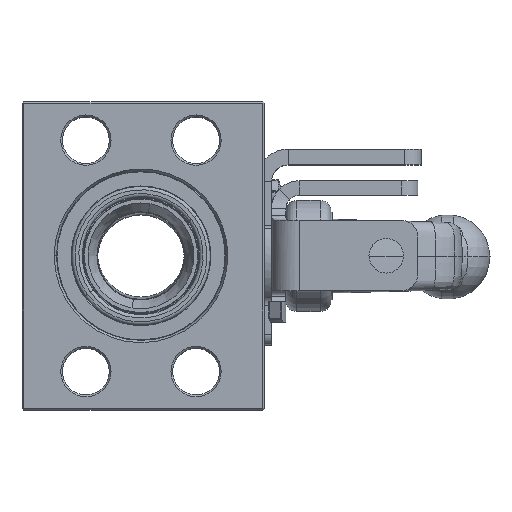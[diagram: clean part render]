
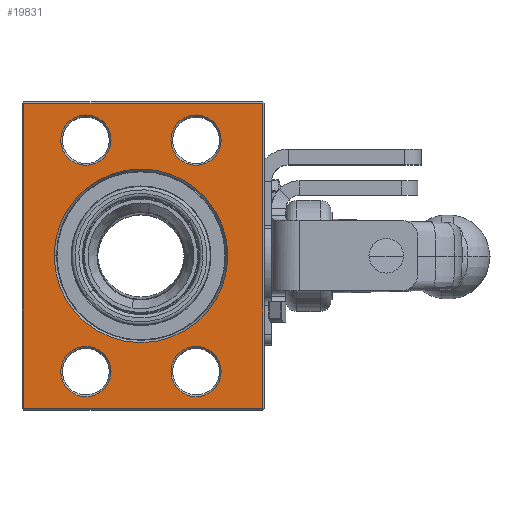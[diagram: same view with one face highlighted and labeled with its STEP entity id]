
A CAD part, top view. The second image highlights one B-rep face of the part: STEP entity #19831.
In plain terms, the highlighted planar face has unit normal (0, 0, 1).
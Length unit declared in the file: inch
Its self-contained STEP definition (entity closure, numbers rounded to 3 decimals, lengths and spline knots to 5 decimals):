
#115 = EDGE_CURVE ( 'NONE', #28345, #23156, #29807, .T. ) ;
#414 = EDGE_CURVE ( 'NONE', #30707, #33811, #50816, .T. ) ;
#443 = DIRECTION ( 'NONE',  ( -1., 0., 0. ) ) ;
#485 = DIRECTION ( 'NONE',  ( 0., 0., -1. ) ) ;
#884 = CIRCLE ( 'NONE', #41654, 0.285 ) ;
#1226 = ORIENTED_EDGE ( 'NONE', *, *, #42892, .T. ) ;
#1297 = LINE ( 'NONE', #17258, #22235 ) ;
#2277 = VERTEX_POINT ( 'NONE', #28572 ) ;
#2711 = ORIENTED_EDGE ( 'NONE', *, *, #44170, .T. ) ;
#2785 = EDGE_CURVE ( 'NONE', #5472, #27418, #18667, .T. ) ;
#3116 = EDGE_CURVE ( 'NONE', #42553, #6501, #38236, .T. ) ;
#3487 = CIRCLE ( 'NONE', #19976, 0.98498 ) ;
#3756 = DIRECTION ( 'NONE',  ( -1., 0., 0. ) ) ;
#4129 = EDGE_CURVE ( 'NONE', #33811, #30707, #9684, .T. ) ;
#4918 = DIRECTION ( 'NONE',  ( 0., 1., 0. ) ) ;
#5430 = CIRCLE ( 'NONE', #8846, 0.285 ) ;
#5472 = VERTEX_POINT ( 'NONE', #11023 ) ;
#6365 = LINE ( 'NONE', #16170, #7927 ) ;
#6501 = VERTEX_POINT ( 'NONE', #50022 ) ;
#6754 = EDGE_CURVE ( 'NONE', #20662, #45246, #5430, .T. ) ;
#6847 = DIRECTION ( 'NONE',  ( -1., 0., 0. ) ) ;
#7009 = CARTESIAN_POINT ( 'NONE',  ( 1.42306, 0.38369, 3.4426 ) ) ;
#7205 = EDGE_LOOP ( 'NONE', ( #51368, #36867 ) ) ;
#7234 = CARTESIAN_POINT ( 'NONE',  ( 1.99306, 3.00969, 3.4426 ) ) ;
#7243 = FACE_BOUND ( 'NONE', #37890, .T. ) ;
#7495 = PLANE ( 'NONE',  #17086 ) ;
#7591 = CARTESIAN_POINT ( 'NONE',  ( 2.46306, 3.42669, 3.4426 ) ) ;
#7927 = VECTOR ( 'NONE', #4918, 39.37008 ) ;
#8024 = DIRECTION ( 'NONE',  ( 0., 0., -1. ) ) ;
#8846 = AXIS2_PLACEMENT_3D ( 'NONE', #26556, #22574, #6847 ) ;
#8902 = CARTESIAN_POINT ( 'NONE',  ( -0.24694, -0.03331, 3.4426 ) ) ;
#8921 = CARTESIAN_POINT ( 'NONE',  ( 1.70806, 0.38369, 3.4426 ) ) ;
#9172 = EDGE_CURVE ( 'NONE', #46580, #10552, #6365, .T. ) ;
#9603 = ORIENTED_EDGE ( 'NONE', *, *, #36238, .T. ) ;
#9684 = CIRCLE ( 'NONE', #38581, 0.285 ) ;
#9942 = CARTESIAN_POINT ( 'NONE',  ( -0.24694, 3.42669, 3.4426 ) ) ;
#9978 = DIRECTION ( 'NONE',  ( 0., 0., -1. ) ) ;
#10371 = EDGE_LOOP ( 'NONE', ( #39090, #9603 ) ) ;
#10552 = VERTEX_POINT ( 'NONE', #7591 ) ;
#10825 = DIRECTION ( 'NONE',  ( 0., 0., -1. ) ) ;
#11002 = CIRCLE ( 'NONE', #16963, 0.285 ) ;
#11023 = CARTESIAN_POINT ( 'NONE',  ( 2.06804, 1.69669, 3.4426 ) ) ;
#12392 = CARTESIAN_POINT ( 'NONE',  ( 0.09807, 1.69669, 3.4426 ) ) ;
#12466 = DIRECTION ( 'NONE',  ( -1., 0., 0. ) ) ;
#12514 = ORIENTED_EDGE ( 'NONE', *, *, #33867, .T. ) ;
#14408 = EDGE_LOOP ( 'NONE', ( #44274, #2711, #17247, #12514 ) ) ;
#14836 = DIRECTION ( 'NONE',  ( -1., 0., 0. ) ) ;
#15092 = DIRECTION ( 'NONE',  ( 0., 0., -1. ) ) ;
#15277 = AXIS2_PLACEMENT_3D ( 'NONE', #31542, #47746, #39763 ) ;
#15749 = FACE_BOUND ( 'NONE', #51378, .T. ) ;
#16170 = CARTESIAN_POINT ( 'NONE',  ( 2.46306, -0.05331, 3.4426 ) ) ;
#16963 = AXIS2_PLACEMENT_3D ( 'NONE', #19449, #51103, #22669 ) ;
#17086 = AXIS2_PLACEMENT_3D ( 'NONE', #19485, #8024, #3756 ) ;
#17247 = ORIENTED_EDGE ( 'NONE', *, *, #9172, .T. ) ;
#17258 = CARTESIAN_POINT ( 'NONE',  ( -0.26694, 3.42669, 3.4426 ) ) ;
#17560 = CARTESIAN_POINT ( 'NONE',  ( -0.24694, -0.05331, 3.4426 ) ) ;
#18216 = DIRECTION ( 'NONE',  ( 0., 0., -1. ) ) ;
#18667 = CIRCLE ( 'NONE', #24625, 0.98498 ) ;
#19024 = CARTESIAN_POINT ( 'NONE',  ( 0.45806, 3.00969, 3.4426 ) ) ;
#19449 = CARTESIAN_POINT ( 'NONE',  ( 1.70806, 0.38369, 3.4426 ) ) ;
#19485 = CARTESIAN_POINT ( 'NONE',  ( -0.26694, -0.05331, 3.4426 ) ) ;
#19831 = ADVANCED_FACE ( 'NONE', ( #15749, #35959, #20268, #24006, #7243, #31717 ), #7495, .F. ) ;
#19976 = AXIS2_PLACEMENT_3D ( 'NONE', #29231, #485, #12466 ) ;
#20268 = FACE_BOUND ( 'NONE', #7205, .T. ) ;
#20662 = VERTEX_POINT ( 'NONE', #51725 ) ;
#21022 = DIRECTION ( 'NONE',  ( 0., -1., 0. ) ) ;
#21386 = CIRCLE ( 'NONE', #26508, 0.285 ) ;
#22235 = VECTOR ( 'NONE', #45438, 39.37008 ) ;
#22574 = DIRECTION ( 'NONE',  ( 0., 0., -1. ) ) ;
#22669 = DIRECTION ( 'NONE',  ( -1., 0., 0. ) ) ;
#23156 = VERTEX_POINT ( 'NONE', #8902 ) ;
#23717 = CARTESIAN_POINT ( 'NONE',  ( -0.26694, -0.03331, 3.4426 ) ) ;
#23996 = CARTESIAN_POINT ( 'NONE',  ( 0.17306, 3.00969, 3.4426 ) ) ;
#24006 = FACE_BOUND ( 'NONE', #42759, .T. ) ;
#24405 = VERTEX_POINT ( 'NONE', #7009 ) ;
#24625 = AXIS2_PLACEMENT_3D ( 'NONE', #27072, #43291, #443 ) ;
#26286 = EDGE_CURVE ( 'NONE', #2277, #24405, #36053, .T. ) ;
#26508 = AXIS2_PLACEMENT_3D ( 'NONE', #19024, #47458, #42961 ) ;
#26543 = CARTESIAN_POINT ( 'NONE',  ( 0.74306, 0.38369, 3.4426 ) ) ;
#26556 = CARTESIAN_POINT ( 'NONE',  ( 0.45806, 3.00969, 3.4426 ) ) ;
#27072 = CARTESIAN_POINT ( 'NONE',  ( 1.08306, 1.69669, 3.4426 ) ) ;
#27418 = VERTEX_POINT ( 'NONE', #12392 ) ;
#27573 = AXIS2_PLACEMENT_3D ( 'NONE', #8921, #9978, #42427 ) ;
#27884 = AXIS2_PLACEMENT_3D ( 'NONE', #52298, #10825, #39542 ) ;
#28345 = VERTEX_POINT ( 'NONE', #9942 ) ;
#28572 = CARTESIAN_POINT ( 'NONE',  ( 1.99306, 0.38369, 3.4426 ) ) ;
#29231 = CARTESIAN_POINT ( 'NONE',  ( 1.08306, 1.69669, 3.4426 ) ) ;
#29807 = LINE ( 'NONE', #17560, #32136 ) ;
#30707 = VERTEX_POINT ( 'NONE', #7234 ) ;
#31542 = CARTESIAN_POINT ( 'NONE',  ( 0.45806, 0.38369, 3.4426 ) ) ;
#31694 = LINE ( 'NONE', #23717, #41794 ) ;
#31717 = FACE_OUTER_BOUND ( 'NONE', #14408, .T. ) ;
#32136 = VECTOR ( 'NONE', #21022, 39.37008 ) ;
#33366 = ORIENTED_EDGE ( 'NONE', *, *, #2785, .T. ) ;
#33811 = VERTEX_POINT ( 'NONE', #51578 ) ;
#33867 = EDGE_CURVE ( 'NONE', #10552, #28345, #1297, .T. ) ;
#34000 = EDGE_CURVE ( 'NONE', #27418, #5472, #3487, .T. ) ;
#34080 = ORIENTED_EDGE ( 'NONE', *, *, #48065, .T. ) ;
#34446 = DIRECTION ( 'NONE',  ( -1., 0., 0. ) ) ;
#34776 = ORIENTED_EDGE ( 'NONE', *, *, #34000, .T. ) ;
#35959 = FACE_BOUND ( 'NONE', #10371, .T. ) ;
#36053 = CIRCLE ( 'NONE', #27573, 0.285 ) ;
#36238 = EDGE_CURVE ( 'NONE', #6501, #42553, #884, .T. ) ;
#36375 = ORIENTED_EDGE ( 'NONE', *, *, #26286, .T. ) ;
#36867 = ORIENTED_EDGE ( 'NONE', *, *, #4129, .T. ) ;
#37890 = EDGE_LOOP ( 'NONE', ( #36375, #34080 ) ) ;
#38161 = CARTESIAN_POINT ( 'NONE',  ( 1.70806, 3.00969, 3.4426 ) ) ;
#38236 = CIRCLE ( 'NONE', #15277, 0.285 ) ;
#38581 = AXIS2_PLACEMENT_3D ( 'NONE', #38161, #18216, #34446 ) ;
#39090 = ORIENTED_EDGE ( 'NONE', *, *, #3116, .T. ) ;
#39542 = DIRECTION ( 'NONE',  ( -1., 0., 0. ) ) ;
#39763 = DIRECTION ( 'NONE',  ( -1., 0., 0. ) ) ;
#41653 = ORIENTED_EDGE ( 'NONE', *, *, #6754, .T. ) ;
#41654 = AXIS2_PLACEMENT_3D ( 'NONE', #51259, #15092, #14836 ) ;
#41794 = VECTOR ( 'NONE', #48162, 39.37008 ) ;
#42427 = DIRECTION ( 'NONE',  ( -1., 0., 0. ) ) ;
#42553 = VERTEX_POINT ( 'NONE', #26543 ) ;
#42759 = EDGE_LOOP ( 'NONE', ( #41653, #1226 ) ) ;
#42892 = EDGE_CURVE ( 'NONE', #45246, #20662, #21386, .T. ) ;
#42961 = DIRECTION ( 'NONE',  ( -1., 0., 0. ) ) ;
#43291 = DIRECTION ( 'NONE',  ( 0., 0., -1. ) ) ;
#44170 = EDGE_CURVE ( 'NONE', #23156, #46580, #31694, .T. ) ;
#44274 = ORIENTED_EDGE ( 'NONE', *, *, #115, .T. ) ;
#45246 = VERTEX_POINT ( 'NONE', #23996 ) ;
#45438 = DIRECTION ( 'NONE',  ( -1., 0., 0. ) ) ;
#46405 = CARTESIAN_POINT ( 'NONE',  ( 2.46306, -0.03331, 3.4426 ) ) ;
#46580 = VERTEX_POINT ( 'NONE', #46405 ) ;
#47458 = DIRECTION ( 'NONE',  ( 0., 0., -1. ) ) ;
#47746 = DIRECTION ( 'NONE',  ( 0., 0., -1. ) ) ;
#48065 = EDGE_CURVE ( 'NONE', #24405, #2277, #11002, .T. ) ;
#48162 = DIRECTION ( 'NONE',  ( 1., 0., 0. ) ) ;
#50022 = CARTESIAN_POINT ( 'NONE',  ( 0.17306, 0.38369, 3.4426 ) ) ;
#50816 = CIRCLE ( 'NONE', #27884, 0.285 ) ;
#51103 = DIRECTION ( 'NONE',  ( 0., 0., -1. ) ) ;
#51259 = CARTESIAN_POINT ( 'NONE',  ( 0.45806, 0.38369, 3.4426 ) ) ;
#51368 = ORIENTED_EDGE ( 'NONE', *, *, #414, .T. ) ;
#51378 = EDGE_LOOP ( 'NONE', ( #33366, #34776 ) ) ;
#51578 = CARTESIAN_POINT ( 'NONE',  ( 1.42306, 3.00969, 3.4426 ) ) ;
#51725 = CARTESIAN_POINT ( 'NONE',  ( 0.74306, 3.00969, 3.4426 ) ) ;
#52298 = CARTESIAN_POINT ( 'NONE',  ( 1.70806, 3.00969, 3.4426 ) ) ;
